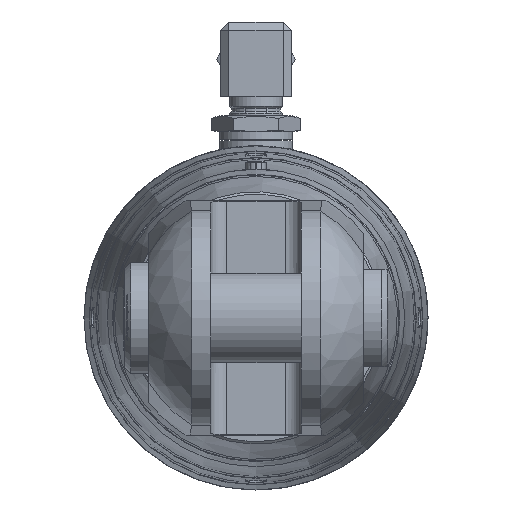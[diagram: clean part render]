
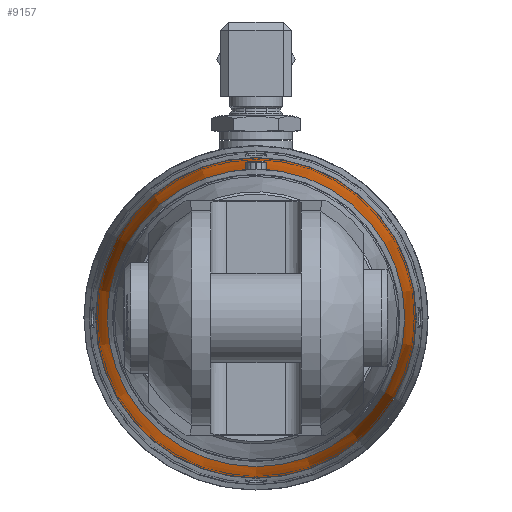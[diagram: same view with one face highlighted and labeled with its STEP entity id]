
A CAD part, left-side view. The second image highlights one B-rep face of the part: STEP entity #9157.
In plain terms, the highlighted conical face has half-angle 5 degrees and reference radius 38.423 mm.
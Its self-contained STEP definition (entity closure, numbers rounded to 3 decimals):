
#142=CONICAL_SURFACE('',#10112,38.424,0.087);
#887=LINE('',#16608,#1465);
#1465=VECTOR('',#12548,38.424);
#2811=FACE_OUTER_BOUND('',#3357,.T.);
#3357=EDGE_LOOP('',(#8469,#8470,#8471,#8472,#8473,#8474));
#3800=CIRCLE('',#10113,39.803);
#3801=CIRCLE('',#10114,39.803);
#3802=CIRCLE('',#10115,37.);
#3803=CIRCLE('',#10116,37.);
#4699=VERTEX_POINT('',#16603);
#4700=VERTEX_POINT('',#16604);
#4701=VERTEX_POINT('',#16607);
#4702=VERTEX_POINT('',#16609);
#5968=EDGE_CURVE('',#4699,#4700,#3800,.T.);
#5969=EDGE_CURVE('',#4700,#4699,#3801,.T.);
#5970=EDGE_CURVE('',#4700,#4701,#887,.T.);
#5971=EDGE_CURVE('',#4702,#4701,#3802,.T.);
#5972=EDGE_CURVE('',#4701,#4702,#3803,.T.);
#8469=ORIENTED_EDGE('',*,*,#5968,.F.);
#8470=ORIENTED_EDGE('',*,*,#5969,.F.);
#8471=ORIENTED_EDGE('',*,*,#5970,.T.);
#8472=ORIENTED_EDGE('',*,*,#5971,.F.);
#8473=ORIENTED_EDGE('',*,*,#5972,.F.);
#8474=ORIENTED_EDGE('',*,*,#5970,.F.);
#9157=ADVANCED_FACE('',(#2811),#142,.T.);
#10112=AXIS2_PLACEMENT_3D('',#16602,#12542,#12543);
#10113=AXIS2_PLACEMENT_3D('',#16605,#12544,#12545);
#10114=AXIS2_PLACEMENT_3D('',#16606,#12546,#12547);
#10115=AXIS2_PLACEMENT_3D('',#16610,#12549,#12550);
#10116=AXIS2_PLACEMENT_3D('',#16611,#12551,#12552);
#12542=DIRECTION('center_axis',(1.,0.,0.));
#12543=DIRECTION('ref_axis',(0.,0.,
1.));
#12544=DIRECTION('center_axis',(1.,0.,0.));
#12545=DIRECTION('ref_axis',(0.,0.,
-1.));
#12546=DIRECTION('center_axis',(1.,0.,0.));
#12547=DIRECTION('ref_axis',(0.,0.,
-1.));
#12548=DIRECTION('',(-0.996,0.,0.087));
#12549=DIRECTION('center_axis',(-1.,0.,0.));
#12550=DIRECTION('ref_axis',(0.,0.,
-1.));
#12551=DIRECTION('center_axis',(-1.,0.,0.));
#12552=DIRECTION('ref_axis',(0.,0.,
-1.));
#16602=CARTESIAN_POINT('Origin',(-614.521,0.,
0.));
#16603=CARTESIAN_POINT('',(-598.748,0.,39.803));
#16604=CARTESIAN_POINT('',(-598.748,0.,-39.803));
#16605=CARTESIAN_POINT('Origin',(-598.748,0.,
0.));
#16606=CARTESIAN_POINT('Origin',(-598.748,0.,
0.));
#16607=CARTESIAN_POINT('',(-630.791,0.,-37.));
#16608=CARTESIAN_POINT('',(-614.521,0.,-38.423));
#16609=CARTESIAN_POINT('',(-630.791,0.,37.));
#16610=CARTESIAN_POINT('Origin',(-630.791,0.,
0.));
#16611=CARTESIAN_POINT('Origin',(-630.791,0.,
0.));
